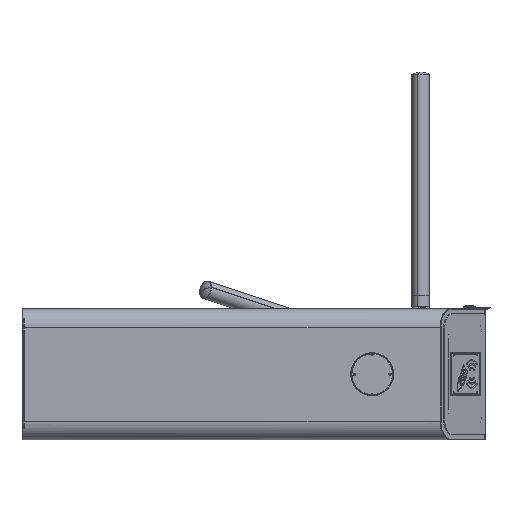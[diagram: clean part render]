
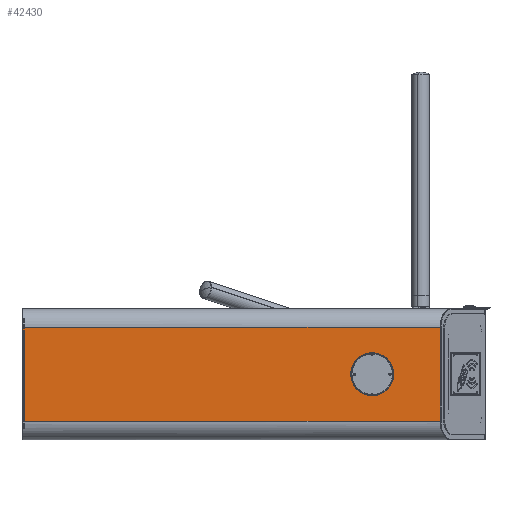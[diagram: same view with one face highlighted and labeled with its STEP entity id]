
A CAD part, left-side view. The second image highlights one B-rep face of the part: STEP entity #42430.
In plain terms, the highlighted planar face has unit normal (-1, 0, 0) as drawn and (0, 0, 1) by its records, which use the part's own axes.
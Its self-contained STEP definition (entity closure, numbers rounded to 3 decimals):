
#39564=CARTESIAN_POINT('',(100.,890.737,165.));
#39583=DIRECTION('',(0.,1.,0.));
#39584=VECTOR('',#39583,889.337);
#39585=CARTESIAN_POINT('',(100.,1.4,165.));
#39586=LINE('',#39585,#39584);
#39765=DIRECTION('',(0.,1.,0.));
#39766=VECTOR('',#39765,0.5);
#39767=CARTESIAN_POINT('',(-100.,890.737,165.));
#39768=LINE('',#39767,#39766);
#39769=DIRECTION('',(1.,0.,0.));
#39770=VECTOR('',#39769,200.);
#39771=CARTESIAN_POINT('',(-100.,891.237,165.));
#39772=LINE('',#39771,#39770);
#39773=DIRECTION('',(0.,-1.,0.));
#39774=VECTOR('',#39773,0.5);
#39775=CARTESIAN_POINT('',(100.,891.237,165.));
#39776=LINE('',#39775,#39774);
#39777=DIRECTION('',(0.707,0.707,0.));
#39778=VECTOR('',#39777,0.9);
#39779=CARTESIAN_POINT('',(-31.378,712.501,165.));
#39780=LINE('',#39779,#39778);
#39781=CARTESIAN_POINT('',(0.,746.,165.));
#39782=DIRECTION('',(0.,0.,1.));
#39783=DIRECTION('',(-0.683,-0.73,0.));
#39784=AXIS2_PLACEMENT_3D('',#39781,#39782,#39783);
#39786=DIRECTION('',(0.707,-0.707,0.));
#39787=VECTOR('',#39786,0.9);
#39788=CARTESIAN_POINT('',(30.742,713.137,165.));
#39789=LINE('',#39788,#39787);
#39790=CARTESIAN_POINT('',(0.,746.,165.));
#39791=DIRECTION('',(0.,0.,1.));
#39792=DIRECTION('',(0.684,-0.73,0.));
#39793=AXIS2_PLACEMENT_3D('',#39790,#39791,#39792);
#39795=DIRECTION('',(-0.707,0.707,0.));
#39796=VECTOR('',#39795,0.9);
#39797=CARTESIAN_POINT('',(33.499,714.622,165.));
#39798=LINE('',#39797,#39796);
#39799=CARTESIAN_POINT('',(0.,746.,165.));
#39800=DIRECTION('',(0.,0.,1.));
#39801=DIRECTION('',(0.73,-0.683,0.));
#39802=AXIS2_PLACEMENT_3D('',#39799,#39800,#39801);
#39804=CARTESIAN_POINT('',(0.,746.,165.));
#39805=DIRECTION('',(0.,0.,1.));
#39806=DIRECTION('',(1.,0.,0.));
#39807=AXIS2_PLACEMENT_3D('',#39804,#39805,#39806);
#39809=DIRECTION('',(-0.707,0.707,0.));
#39810=VECTOR('',#39809,0.9);
#39811=CARTESIAN_POINT('',(-30.742,778.863,165.));
#39812=LINE('',#39811,#39810);
#39813=CARTESIAN_POINT('',(0.,746.,165.));
#39814=DIRECTION('',(0.,0.,1.));
#39815=DIRECTION('',(-0.684,0.73,0.));
#39816=AXIS2_PLACEMENT_3D('',#39813,#39814,#39815);
#39818=DIRECTION('',(0.707,-0.707,0.));
#39819=VECTOR('',#39818,0.9);
#39820=CARTESIAN_POINT('',(-33.499,777.378,165.));
#39821=LINE('',#39820,#39819);
#39822=CARTESIAN_POINT('',(0.,746.,165.));
#39823=DIRECTION('',(0.,0.,1.));
#39824=DIRECTION('',(-0.73,0.683,0.));
#39825=AXIS2_PLACEMENT_3D('',#39822,#39823,#39824);
#39827=CARTESIAN_POINT('',(0.,746.,165.));
#39828=DIRECTION('',(0.,0.,1.));
#39829=DIRECTION('',(-1.,0.,0.));
#39830=AXIS2_PLACEMENT_3D('',#39827,#39828,#39829);
#39832=DIRECTION('',(-0.707,-0.707,0.));
#39833=VECTOR('',#39832,0.9);
#39834=CARTESIAN_POINT('',(-32.863,715.258,165.));
#39835=LINE('',#39834,#39833);
#39836=CARTESIAN_POINT('',(0.,746.,165.));
#39837=DIRECTION('',(0.,0.,1.));
#39838=DIRECTION('',(-0.73,-0.684,0.));
#39839=AXIS2_PLACEMENT_3D('',#39836,#39837,#39838);
#39852=DIRECTION('',(0.,-1.,0.));
#39853=VECTOR('',#39852,889.337);
#39854=CARTESIAN_POINT('',(-100.,890.737,165.));
#39855=LINE('',#39854,#39853);
#40002=DIRECTION('',(1.,0.,0.));
#40003=VECTOR('',#40002,200.);
#40004=CARTESIAN_POINT('',(-100.,1.4,165.));
#40005=LINE('',#40004,#40003);
#41581=VERTEX_POINT('',#39564);
#41586=CARTESIAN_POINT('',(100.,1.4,165.));
#41587=VERTEX_POINT('',#41586);
#41643=CARTESIAN_POINT('',(100.,891.237,165.));
#41644=VERTEX_POINT('',#41643);
#41645=CARTESIAN_POINT('',(-100.,890.737,165.));
#41646=CARTESIAN_POINT('',(-100.,1.4,165.));
#41647=VERTEX_POINT('',#41645);
#41648=VERTEX_POINT('',#41646);
#41649=CARTESIAN_POINT('',(-100.,891.237,165.));
#41650=VERTEX_POINT('',#41649);
#41651=CARTESIAN_POINT('',(-31.378,712.501,165.));
#41652=CARTESIAN_POINT('',(-30.742,713.137,165.));
#41653=VERTEX_POINT('',#41651);
#41654=VERTEX_POINT('',#41652);
#41655=CARTESIAN_POINT('',(30.742,713.137,165.));
#41656=VERTEX_POINT('',#41655);
#41657=CARTESIAN_POINT('',(31.378,712.501,165.));
#41658=VERTEX_POINT('',#41657);
#41659=CARTESIAN_POINT('',(33.499,714.622,165.));
#41660=VERTEX_POINT('',#41659);
#41661=CARTESIAN_POINT('',(32.863,715.258,165.));
#41662=VERTEX_POINT('',#41661);
#41663=CARTESIAN_POINT('',(45.,746.,165.));
#41664=VERTEX_POINT('',#41663);
#41665=CARTESIAN_POINT('',(-30.742,778.863,165.));
#41666=VERTEX_POINT('',#41665);
#41667=CARTESIAN_POINT('',(-31.378,779.499,165.));
#41668=VERTEX_POINT('',#41667);
#41669=CARTESIAN_POINT('',(-33.499,777.378,165.));
#41670=VERTEX_POINT('',#41669);
#41671=CARTESIAN_POINT('',(-32.863,776.742,165.));
#41672=VERTEX_POINT('',#41671);
#41673=CARTESIAN_POINT('',(-45.,746.,165.));
#41674=VERTEX_POINT('',#41673);
#41675=CARTESIAN_POINT('',(-32.863,715.258,165.));
#41676=VERTEX_POINT('',#41675);
#41677=CARTESIAN_POINT('',(-33.499,714.622,165.));
#41678=VERTEX_POINT('',#41677);
#42383=CARTESIAN_POINT('',(-100.,0.,165.));
#42384=DIRECTION('',(0.,0.,1.));
#42385=DIRECTION('',(1.,0.,0.));
#42386=AXIS2_PLACEMENT_3D('',#42383,#42384,#42385);
#42387=PLANE('',#42386);
#42389=ORIENTED_EDGE('',*,*,#42388,.F.);
#42391=ORIENTED_EDGE('',*,*,#42390,.T.);
#42393=ORIENTED_EDGE('',*,*,#42392,.T.);
#42394=ORIENTED_EDGE('',*,*,#42374,.T.);
#42395=ORIENTED_EDGE('',*,*,#42196,.F.);
#42397=ORIENTED_EDGE('',*,*,#42396,.F.);
#42398=EDGE_LOOP('',(#42389,#42391,#42393,#42394,#42395,#42397));
#42399=FACE_OUTER_BOUND('',#42398,.F.);
#42401=ORIENTED_EDGE('',*,*,#42400,.T.);
#42403=ORIENTED_EDGE('',*,*,#42402,.T.);
#42405=ORIENTED_EDGE('',*,*,#42404,.T.);
#42407=ORIENTED_EDGE('',*,*,#42406,.T.);
#42409=ORIENTED_EDGE('',*,*,#42408,.T.);
#42411=ORIENTED_EDGE('',*,*,#42410,.T.);
#42413=ORIENTED_EDGE('',*,*,#42412,.T.);
#42415=ORIENTED_EDGE('',*,*,#42414,.T.);
#42417=ORIENTED_EDGE('',*,*,#42416,.T.);
#42419=ORIENTED_EDGE('',*,*,#42418,.T.);
#42421=ORIENTED_EDGE('',*,*,#42420,.T.);
#42423=ORIENTED_EDGE('',*,*,#42422,.T.);
#42425=ORIENTED_EDGE('',*,*,#42424,.T.);
#42427=ORIENTED_EDGE('',*,*,#42426,.T.);
#42428=EDGE_LOOP('',(#42401,#42403,#42405,#42407,#42409,#42411,#42413,#42415,
#42417,#42419,#42421,#42423,#42425,#42427));
#42429=FACE_BOUND('',#42428,.F.);
#39785=CIRCLE('',#39784,45.);
#39794=CIRCLE('',#39793,45.9);
#39803=CIRCLE('',#39802,45.);
#39808=CIRCLE('',#39807,45.);
#39817=CIRCLE('',#39816,45.9);
#39826=CIRCLE('',#39825,45.);
#39831=CIRCLE('',#39830,45.);
#39840=CIRCLE('',#39839,45.9);
#42196=EDGE_CURVE('',#41587,#41581,#39586,.T.);
#42374=EDGE_CURVE('',#41644,#41581,#39776,.T.);
#42388=EDGE_CURVE('',#41647,#41648,#39855,.T.);
#42390=EDGE_CURVE('',#41647,#41650,#39768,.T.);
#42392=EDGE_CURVE('',#41650,#41644,#39772,.T.);
#42396=EDGE_CURVE('',#41648,#41587,#40005,.T.);
#42400=EDGE_CURVE('',#41653,#41654,#39780,.T.);
#42402=EDGE_CURVE('',#41654,#41656,#39785,.T.);
#42404=EDGE_CURVE('',#41656,#41658,#39789,.T.);
#42406=EDGE_CURVE('',#41658,#41660,#39794,.T.);
#42408=EDGE_CURVE('',#41660,#41662,#39798,.T.);
#42410=EDGE_CURVE('',#41662,#41664,#39803,.T.);
#42412=EDGE_CURVE('',#41664,#41666,#39808,.T.);
#42414=EDGE_CURVE('',#41666,#41668,#39812,.T.);
#42416=EDGE_CURVE('',#41668,#41670,#39817,.T.);
#42418=EDGE_CURVE('',#41670,#41672,#39821,.T.);
#42420=EDGE_CURVE('',#41672,#41674,#39826,.T.);
#42422=EDGE_CURVE('',#41674,#41676,#39831,.T.);
#42424=EDGE_CURVE('',#41676,#41678,#39835,.T.);
#42426=EDGE_CURVE('',#41678,#41653,#39840,.T.);
#42430=ADVANCED_FACE('',(#42399,#42429),#42387,.T.);
